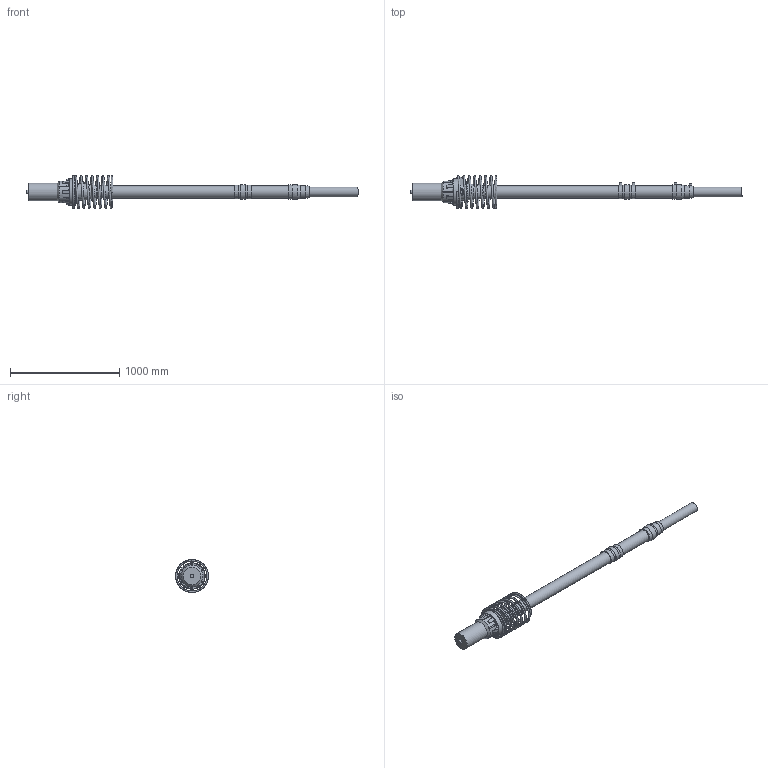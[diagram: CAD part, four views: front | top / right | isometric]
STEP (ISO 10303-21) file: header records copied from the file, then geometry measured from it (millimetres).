
FILE_DESCRIPTION(/* description */ ('Spannanker_Endzustand L12E_STEP'),/* implementation_level */ '2;1');
FILE_NAME(/* name */ 'Z:\IDA\BBV\DE\400_Technik\02 Zusammenbau\ETA-11_0123 Typ E-Litzenspannverf. Extern\Endzustand - S\ETA-11_0123.S.012.01.G Spannanker_Endzustand L12E_STEP.stp',/* time_stamp */ '2022-08-02T16:05:28+02:00',/* author */ ('glowak'),/* organization */ (''),/* preprocessor_version */ 'ST-DEVELOPER v18.1',/* originating_system */ 'Autodesk Inventor 2021',/* authorisation */ '');
FILE_SCHEMA (('AUTOMOTIVE_DESIGN { 1 0 10303 214 3 1 1 }'));
Length unit declared in the file: millimetre
Products named in the file (1): ETA-11_0123.S.012.01.G Spannanker_Endzustand L12E_STEP
Bounding box: 3035.13 x 299.96 x 299.96 mm (x, y, z)
Volume: 37276730.8 mm3; surface area: 1774500 mm2
Topology: 2 solids, 2 shells, 340 faces, 865 edges, 569 vertices
Faces by surface type: plane 146, bspline 92, cylinder 59, cone 31, torus 12
Full cylindrical faces by diameter (mm): 8 x6, 15 x6, 22.8 x2, 25.2 x2, 35 x1, 90 x1, 110 x3, 114 x1, 116.45 x1, 119 x1, 121 x1, 127.3 x2, 130 x1, 134 x1, 136.966 x1, 137 x1, 140 x1, 160 x1, 174 x1, 192 x1, 240 x1
Entity records: 26882 total; most frequent: CARTESIAN_POINT 19031, ORIENTED_EDGE 1714, DIRECTION 1229, EDGE_CURVE 857, VERTEX_POINT 565, AXIS2_PLACEMENT_3D 453, EDGE_LOOP 384, STYLED_ITEM 342
